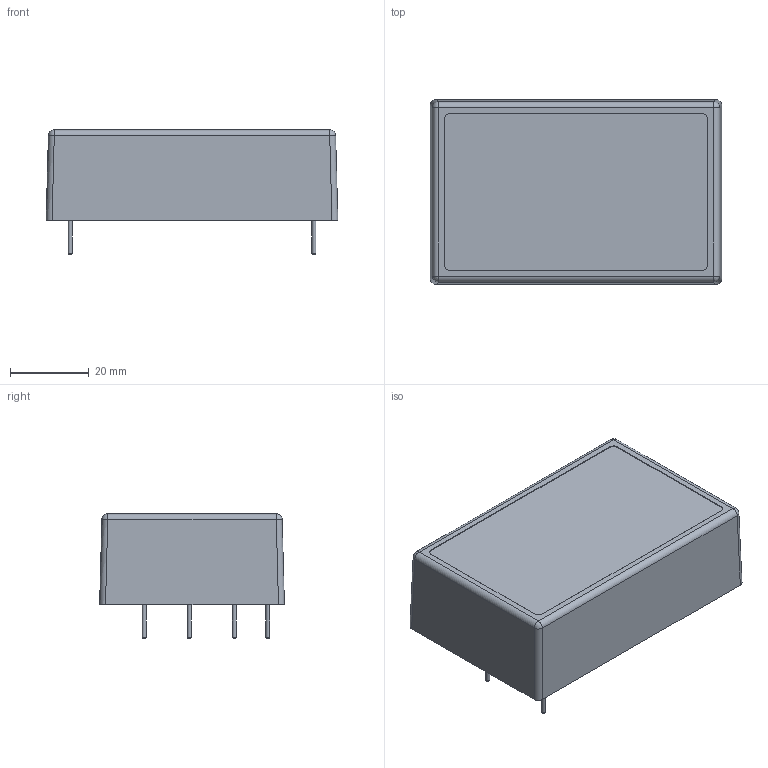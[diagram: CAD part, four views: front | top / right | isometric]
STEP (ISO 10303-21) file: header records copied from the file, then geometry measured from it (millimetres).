
FILE_DESCRIPTION(/* description */ (''),/* implementation_level */ '2;1');
FILE_NAME(/* name */ 'D:\Inventor\3D FILE\ARC60.stp',/* time_stamp */ '2020-03-13T11:23:22+08:00',/* author */ ('peter'),/* organization */ (''),/* preprocessor_version */ 'ST-DEVELOPER v15.2',/* originating_system */ 'Autodesk Inventor 2014',/* authorisation */ '');
FILE_SCHEMA (('AUTOMOTIVE_DESIGN { 1 0 10303 214 3 1 1 }'));
Length unit declared in the file: millimetre
Products named in the file (4): TOP CASE; BOT CASE; PIN _ 8 x 1 mm; ARC60
Bounding box: 74.2 x 47 x 31.6 mm (x, y, z)
Volume: 12710 mm3; surface area: 24188 mm2
Topology: 6 solids, 6 shells, 131 faces, 327 edges, 211 vertices
Faces by surface type: plane 89, cylinder 29, cone 5, sphere 4, torus 4
Full cylindrical faces by diameter (mm): 1 x4, 1.3 x5
Entity records: 3691 total; most frequent: CARTESIAN_POINT 631, DIRECTION 616, ORIENTED_EDGE 600, EDGE_CURVE 300, LINE 242, VECTOR 242, VERTEX_POINT 202, AXIS2_PLACEMENT_3D 187
